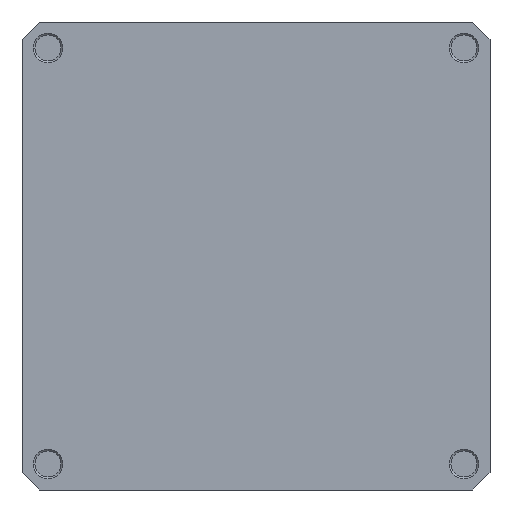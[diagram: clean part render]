
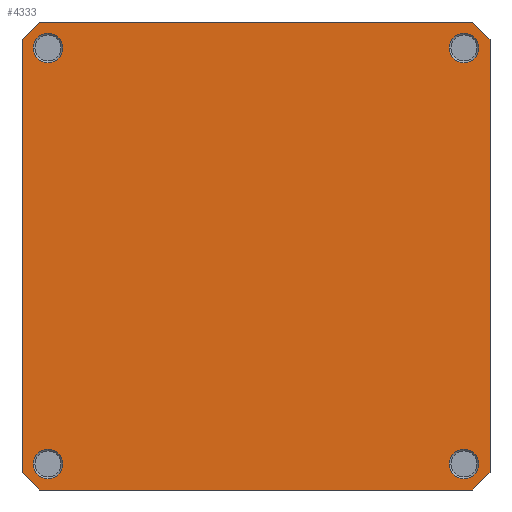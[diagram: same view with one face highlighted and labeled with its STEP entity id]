
A CAD part, front view. The second image highlights one B-rep face of the part: STEP entity #4333.
In plain terms, the highlighted planar face has unit normal (0, -1, 0).
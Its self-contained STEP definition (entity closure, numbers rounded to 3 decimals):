
#2=DIRECTION('',(0.707,0.,-0.707));
#3=VECTOR('',#2,2.828);
#4=CARTESIAN_POINT('',(-27.,-72.,-25.));
#5=LINE('',#4,#3);
#6=DIRECTION('',(0.,0.,1.));
#7=VECTOR('',#6,50.);
#8=CARTESIAN_POINT('',(-27.,-72.,-25.));
#9=LINE('',#8,#7);
#10=DIRECTION('',(-0.707,0.,-0.707));
#11=VECTOR('',#10,2.828);
#12=CARTESIAN_POINT('',(-25.,-72.,27.));
#13=LINE('',#12,#11);
#14=DIRECTION('',(1.,0.,0.));
#15=VECTOR('',#14,50.);
#16=CARTESIAN_POINT('',(-25.,-72.,27.));
#17=LINE('',#16,#15);
#18=DIRECTION('',(-0.707,0.,0.707));
#19=VECTOR('',#18,2.828);
#20=CARTESIAN_POINT('',(27.,-72.,25.));
#21=LINE('',#20,#19);
#22=DIRECTION('',(0.,0.,-1.));
#23=VECTOR('',#22,50.);
#24=CARTESIAN_POINT('',(27.,-72.,25.));
#25=LINE('',#24,#23);
#26=DIRECTION('',(0.707,0.,0.707));
#27=VECTOR('',#26,2.828);
#28=CARTESIAN_POINT('',(25.,-72.,-27.));
#29=LINE('',#28,#27);
#30=DIRECTION('',(-1.,0.,0.));
#31=VECTOR('',#30,50.);
#32=CARTESIAN_POINT('',(25.,-72.,-27.));
#33=LINE('',#32,#31);
#34=CARTESIAN_POINT('',(24.,-72.,-24.));
#35=DIRECTION('',(0.,1.,0.));
#36=DIRECTION('',(0.,0.,1.));
#37=AXIS2_PLACEMENT_3D('',#34,#35,#36);
#39=CARTESIAN_POINT('',(24.,-72.,-24.));
#40=DIRECTION('',(0.,1.,0.));
#41=DIRECTION('',(0.,0.,-1.));
#42=AXIS2_PLACEMENT_3D('',#39,#40,#41);
#44=CARTESIAN_POINT('',(24.,-72.,24.));
#45=DIRECTION('',(0.,1.,0.));
#46=DIRECTION('',(0.,0.,1.));
#47=AXIS2_PLACEMENT_3D('',#44,#45,#46);
#49=CARTESIAN_POINT('',(24.,-72.,24.));
#50=DIRECTION('',(0.,1.,0.));
#51=DIRECTION('',(0.,0.,-1.));
#52=AXIS2_PLACEMENT_3D('',#49,#50,#51);
#54=CARTESIAN_POINT('',(-24.,-72.,24.));
#55=DIRECTION('',(0.,1.,0.));
#56=DIRECTION('',(0.,0.,-1.));
#57=AXIS2_PLACEMENT_3D('',#54,#55,#56);
#59=CARTESIAN_POINT('',(-24.,-72.,24.));
#60=DIRECTION('',(0.,1.,0.));
#61=DIRECTION('',(0.,0.,1.));
#62=AXIS2_PLACEMENT_3D('',#59,#60,#61);
#64=CARTESIAN_POINT('',(-24.,-72.,-24.));
#65=DIRECTION('',(0.,1.,0.));
#66=DIRECTION('',(0.,0.,-1.));
#67=AXIS2_PLACEMENT_3D('',#64,#65,#66);
#69=CARTESIAN_POINT('',(-24.,-72.,-24.));
#70=DIRECTION('',(0.,1.,0.));
#71=DIRECTION('',(0.,0.,1.));
#72=AXIS2_PLACEMENT_3D('',#69,#70,#71);
#3502=CARTESIAN_POINT('',(-27.,-72.,-25.));
#3503=CARTESIAN_POINT('',(-25.,-72.,-27.));
#3504=VERTEX_POINT('',#3502);
#3505=VERTEX_POINT('',#3503);
#3510=CARTESIAN_POINT('',(-25.,-72.,27.));
#3511=CARTESIAN_POINT('',(-27.,-72.,25.));
#3512=VERTEX_POINT('',#3510);
#3513=VERTEX_POINT('',#3511);
#3526=CARTESIAN_POINT('',(25.,-72.,-27.));
#3527=CARTESIAN_POINT('',(27.,-72.,-25.));
#3528=VERTEX_POINT('',#3526);
#3529=VERTEX_POINT('',#3527);
#3534=CARTESIAN_POINT('',(27.,-72.,25.));
#3535=CARTESIAN_POINT('',(25.,-72.,27.));
#3536=VERTEX_POINT('',#3534);
#3537=VERTEX_POINT('',#3535);
#3722=CARTESIAN_POINT('',(24.,-72.,-22.3));
#3723=CARTESIAN_POINT('',(24.,-72.,-25.7));
#3724=VERTEX_POINT('',#3722);
#3725=VERTEX_POINT('',#3723);
#3730=CARTESIAN_POINT('',(24.,-72.,25.7));
#3731=CARTESIAN_POINT('',(24.,-72.,22.3));
#3732=VERTEX_POINT('',#3730);
#3733=VERTEX_POINT('',#3731);
#3738=CARTESIAN_POINT('',(-24.,-72.,22.3));
#3739=CARTESIAN_POINT('',(-24.,-72.,25.7));
#3740=VERTEX_POINT('',#3738);
#3741=VERTEX_POINT('',#3739);
#3746=CARTESIAN_POINT('',(-24.,-72.,-25.7));
#3747=CARTESIAN_POINT('',(-24.,-72.,-22.3));
#3748=VERTEX_POINT('',#3746);
#3749=VERTEX_POINT('',#3747);
#4286=CARTESIAN_POINT('',(0.,-72.,0.));
#4287=DIRECTION('',(0.,1.,0.));
#4288=DIRECTION('',(1.,0.,0.));
#4289=AXIS2_PLACEMENT_3D('',#4286,#4287,#4288);
#4290=PLANE('',#4289);
#4292=ORIENTED_EDGE('',*,*,#4291,.F.);
#4294=ORIENTED_EDGE('',*,*,#4293,.T.);
#4296=ORIENTED_EDGE('',*,*,#4295,.F.);
#4298=ORIENTED_EDGE('',*,*,#4297,.T.);
#4300=ORIENTED_EDGE('',*,*,#4299,.F.);
#4302=ORIENTED_EDGE('',*,*,#4301,.T.);
#4304=ORIENTED_EDGE('',*,*,#4303,.F.);
#4306=ORIENTED_EDGE('',*,*,#4305,.T.);
#4307=EDGE_LOOP('',(#4292,#4294,#4296,#4298,#4300,#4302,#4304,#4306));
#4308=FACE_OUTER_BOUND('',#4307,.F.);
#4310=ORIENTED_EDGE('',*,*,#4309,.F.);
#4312=ORIENTED_EDGE('',*,*,#4311,.F.);
#4313=EDGE_LOOP('',(#4310,#4312));
#4314=FACE_BOUND('',#4313,.F.);
#4316=ORIENTED_EDGE('',*,*,#4315,.F.);
#4318=ORIENTED_EDGE('',*,*,#4317,.F.);
#4319=EDGE_LOOP('',(#4316,#4318));
#4320=FACE_BOUND('',#4319,.F.);
#4322=ORIENTED_EDGE('',*,*,#4321,.F.);
#4324=ORIENTED_EDGE('',*,*,#4323,.F.);
#4325=EDGE_LOOP('',(#4322,#4324));
#4326=FACE_BOUND('',#4325,.F.);
#4328=ORIENTED_EDGE('',*,*,#4327,.F.);
#4330=ORIENTED_EDGE('',*,*,#4329,.F.);
#4331=EDGE_LOOP('',(#4328,#4330));
#4332=FACE_BOUND('',#4331,.F.);
#4333=ADVANCED_FACE('',(#4308,#4314,#4320,#4326,#4332),#4290,.F.);
#38=CIRCLE('',#37,1.7);
#43=CIRCLE('',#42,1.7);
#48=CIRCLE('',#47,1.7);
#53=CIRCLE('',#52,1.7);
#58=CIRCLE('',#57,1.7);
#63=CIRCLE('',#62,1.7);
#68=CIRCLE('',#67,1.7);
#73=CIRCLE('',#72,1.7);
#4291=EDGE_CURVE('',#3504,#3505,#5,.T.);
#4293=EDGE_CURVE('',#3504,#3513,#9,.T.);
#4295=EDGE_CURVE('',#3512,#3513,#13,.T.);
#4297=EDGE_CURVE('',#3512,#3537,#17,.T.);
#4299=EDGE_CURVE('',#3536,#3537,#21,.T.);
#4301=EDGE_CURVE('',#3536,#3529,#25,.T.);
#4303=EDGE_CURVE('',#3528,#3529,#29,.T.);
#4305=EDGE_CURVE('',#3528,#3505,#33,.T.);
#4309=EDGE_CURVE('',#3724,#3725,#38,.T.);
#4311=EDGE_CURVE('',#3725,#3724,#43,.T.);
#4315=EDGE_CURVE('',#3732,#3733,#48,.T.);
#4317=EDGE_CURVE('',#3733,#3732,#53,.T.);
#4321=EDGE_CURVE('',#3740,#3741,#58,.T.);
#4323=EDGE_CURVE('',#3741,#3740,#63,.T.);
#4327=EDGE_CURVE('',#3748,#3749,#68,.T.);
#4329=EDGE_CURVE('',#3749,#3748,#73,.T.);
